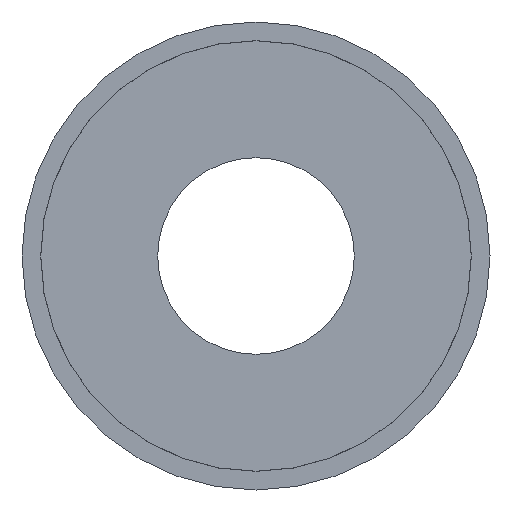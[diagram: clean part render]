
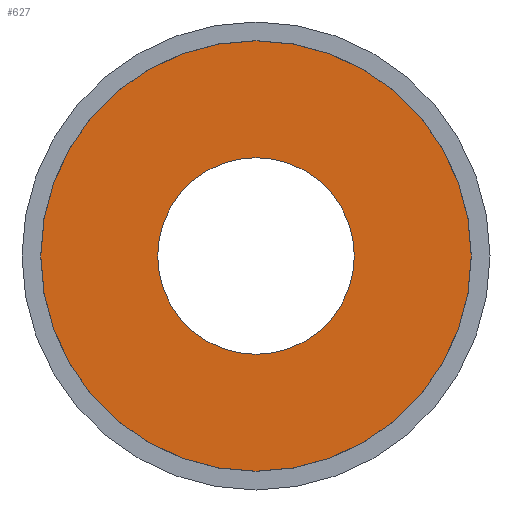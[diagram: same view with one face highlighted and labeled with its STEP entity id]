
A CAD part, front view. The second image highlights one B-rep face of the part: STEP entity #627.
In plain terms, the highlighted planar face has unit normal (0, -1, 0).
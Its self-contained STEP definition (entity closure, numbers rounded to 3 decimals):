
#31 = ORIENTED_EDGE ( 'NONE', *, *, #433, .T. ) ;
#70 = EDGE_LOOP ( 'NONE', ( #31, #544 ) ) ;
#101 = DIRECTION ( 'NONE',  ( 0., -1., 0. ) ) ;
#104 = CARTESIAN_POINT ( 'NONE',  ( -25., -10., 0. ) ) ;
#109 = CARTESIAN_POINT ( 'NONE',  ( 0., -10., 0. ) ) ;
#115 = CARTESIAN_POINT ( 'NONE',  ( 0., -10., 10.5 ) ) ;
#136 = VERTEX_POINT ( 'NONE', #801 ) ;
#164 = FACE_BOUND ( 'NONE', #339, .T. ) ;
#237 = FACE_OUTER_BOUND ( 'NONE', #70, .T. ) ;
#249 = DIRECTION ( 'NONE',  ( 0., 0., -1. ) ) ;
#270 = CARTESIAN_POINT ( 'NONE',  ( 0., -10., 0. ) ) ;
#275 = EDGE_CURVE ( 'NONE', #856, #644, #831, .T. ) ;
#322 = EDGE_CURVE ( 'NONE', #136, #382, #807, .T. ) ;
#339 = EDGE_LOOP ( 'NONE', ( #478, #852 ) ) ;
#362 = CARTESIAN_POINT ( 'NONE',  ( 0., -10., -10.5 ) ) ;
#364 = CIRCLE ( 'NONE', #376, 22.99 ) ;
#376 = AXIS2_PLACEMENT_3D ( 'NONE', #270, #569, #646 ) ;
#382 = VERTEX_POINT ( 'NONE', #854 ) ;
#388 = PLANE ( 'NONE',  #555 ) ;
#433 = EDGE_CURVE ( 'NONE', #382, #136, #364, .T. ) ;
#478 = ORIENTED_EDGE ( 'NONE', *, *, #553, .T. ) ;
#537 = AXIS2_PLACEMENT_3D ( 'NONE', #109, #912, #622 ) ;
#544 = ORIENTED_EDGE ( 'NONE', *, *, #322, .T. ) ;
#547 = DIRECTION ( 'NONE',  ( 0., 0., 1. ) ) ;
#553 = EDGE_CURVE ( 'NONE', #644, #856, #665, .T. ) ;
#555 = AXIS2_PLACEMENT_3D ( 'NONE', #104, #101, #249 ) ;
#569 = DIRECTION ( 'NONE',  ( 0., -1., 0. ) ) ;
#598 = DIRECTION ( 'NONE',  ( 0., 0., 1. ) ) ;
#617 = AXIS2_PLACEMENT_3D ( 'NONE', #907, #690, #547 ) ;
#622 = DIRECTION ( 'NONE',  ( 0., 0., -1. ) ) ;
#627 = ADVANCED_FACE ( 'NONE', ( #164, #237 ), #388, .T. ) ;
#644 = VERTEX_POINT ( 'NONE', #115 ) ;
#646 = DIRECTION ( 'NONE',  ( 0., 0., -1. ) ) ;
#665 = CIRCLE ( 'NONE', #862, 10.5 ) ;
#670 = CARTESIAN_POINT ( 'NONE',  ( 0., -10., 0. ) ) ;
#690 = DIRECTION ( 'NONE',  ( 0., 1., 0. ) ) ;
#801 = CARTESIAN_POINT ( 'NONE',  ( 0., -10., 22.99 ) ) ;
#807 = CIRCLE ( 'NONE', #537, 22.99 ) ;
#812 = DIRECTION ( 'NONE',  ( 0., 1., 0. ) ) ;
#831 = CIRCLE ( 'NONE', #617, 10.5 ) ;
#852 = ORIENTED_EDGE ( 'NONE', *, *, #275, .T. ) ;
#854 = CARTESIAN_POINT ( 'NONE',  ( 0., -10., -22.99 ) ) ;
#856 = VERTEX_POINT ( 'NONE', #362 ) ;
#862 = AXIS2_PLACEMENT_3D ( 'NONE', #670, #812, #598 ) ;
#907 = CARTESIAN_POINT ( 'NONE',  ( 0., -10., 0. ) ) ;
#912 = DIRECTION ( 'NONE',  ( 0., -1., 0. ) ) ;
